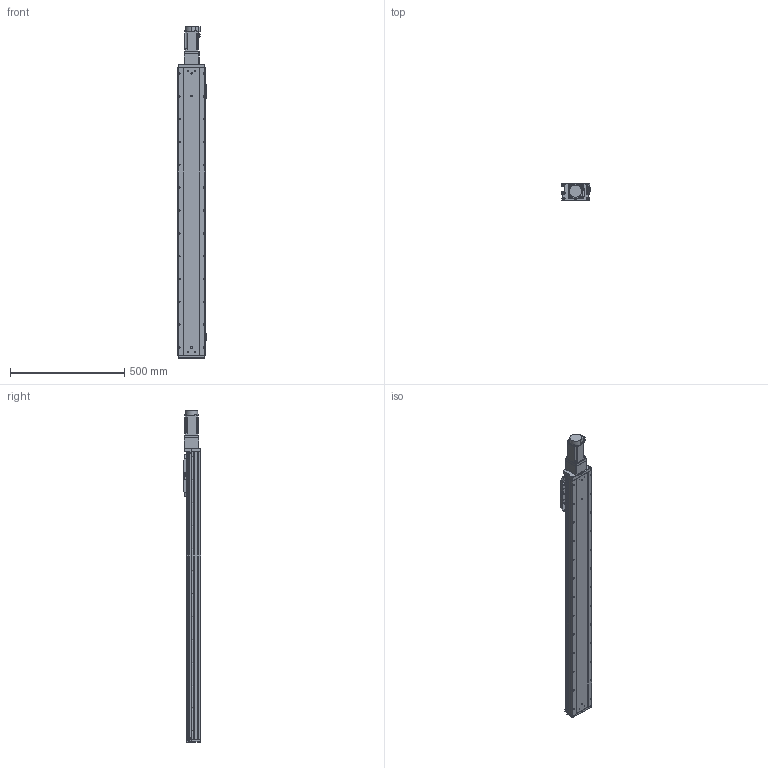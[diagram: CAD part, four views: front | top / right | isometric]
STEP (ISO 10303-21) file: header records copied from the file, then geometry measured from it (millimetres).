
FILE_DESCRIPTION (( 'STEP AP203' ), '1' );
FILE_NAME ('GTH12-1050-BC-M40-C4.step', '2022-09-23T01:13:22', ( '微软用户' ), ( '微软中国' ), 'SwSTEP 2.0', 'SolidWorks 2020', '' );
FILE_SCHEMA (( 'CONFIG_CONTROL_DESIGN' ));
Length unit declared in the file: millimetre
Products named in the file (19): GBT96.1-2002 3×0.8; GBT 70.1-M5×16; BTH-M3X5X6; GTH120-001_1050; GBT 70.3-M3℅8; CTHA86-006-1_CTHA86-006-2; GTH120-003; GTH80-022; CTHA86-013; GTH120-006; GTH80-028; CTHA86-027; GTH120-004; GTH50-023; hg-kn43j_-s100_; GTH120-013; GTH50-024; GTH12-1050-BC-M40-C4; GBT 70.1-M3℅6
Assembly tree (62 placements, depth 2):
  GTH12-1050-BC-M40-C4
    GTH120-001_1050
    GTH120-003
    GTH120-006
    GTH120-004
    GTH120-013
    GBT 70.1-M3℅6  x14
    GBT 70.1-M5×16  x10
    GBT 70.3-M3℅8  x6
    GTH80-022
    GTH80-028  x2
    GTH50-023  x3
    GTH50-024  x3
    GBT96.1-2002 3×0.8  x6
    BTH-M3X5X6  x8
    CTHA86-006-1_CTHA86-006-2
    CTHA86-013
    CTHA86-027
    hg-kn43j_-s100_
Bounding box: 125.7 x 76 x 1453.7 mm (x, y, z)
Volume: 9289324.8 mm3; surface area: 783918.6 mm2
Topology: 64 solids, 64 shells, 2556 faces, 5957 edges, 3633 vertices
Faces by surface type: plane 1288, cylinder 743, cone 347, torus 170, sphere 8
Entity records: 47162 total; most frequent: DIRECTION 7919, CARTESIAN_POINT 7594, ORIENTED_EDGE 7296, EDGE_CURVE 3648, AXIS2_PLACEMENT_3D 2767, VECTOR 2385, LINE 2385, VERTEX_POINT 2292
